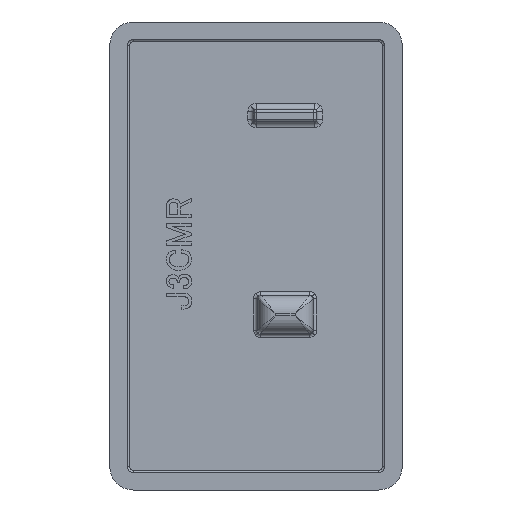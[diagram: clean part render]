
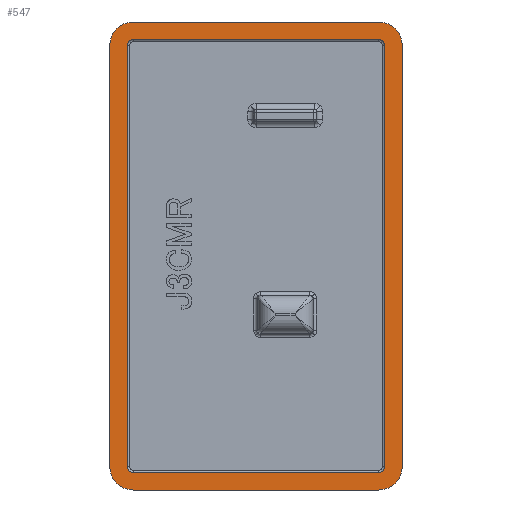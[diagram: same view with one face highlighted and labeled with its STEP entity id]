
A CAD part, front view. The second image highlights one B-rep face of the part: STEP entity #547.
In plain terms, the highlighted planar face has unit normal (0, -1, 0).
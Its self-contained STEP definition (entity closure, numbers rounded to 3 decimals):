
#7 = AXIS2_PLACEMENT_3D ( 'NONE', #7466, #3856, #321 ) ;
#24 = PLANE ( 'NONE',  #54 ) ;
#31 = ORIENTED_EDGE ( 'NONE', *, *, #400, .F. ) ;
#42 = DIRECTION ( 'NONE',  ( 0., 1., 0. ) ) ;
#54 = AXIS2_PLACEMENT_3D ( 'NONE', #6551, #618, #4769 ) ;
#98 = EDGE_LOOP ( 'NONE', ( #31, #1406, #2171, #2607, #2353, #4055, #3730, #4157 ) ) ;
#100 = VECTOR ( 'NONE', #725, 1000. ) ;
#182 = LINE ( 'NONE', #2477, #6309 ) ;
#208 = EDGE_CURVE ( 'NONE', #4601, #5808, #3417, .T. ) ;
#247 = CARTESIAN_POINT ( 'NONE',  ( 23.5, 0., -38. ) ) ;
#314 = EDGE_LOOP ( 'NONE', ( #459, #3101, #2726, #2185, #5000, #1221, #1032, #414 ) ) ;
#321 = DIRECTION ( 'NONE',  ( 0., 0., 1. ) ) ;
#383 = AXIS2_PLACEMENT_3D ( 'NONE', #427, #4571, #1015 ) ;
#400 = EDGE_CURVE ( 'NONE', #2638, #4152, #1922, .T. ) ;
#414 = ORIENTED_EDGE ( 'NONE', *, *, #7040, .F. ) ;
#427 = CARTESIAN_POINT ( 'NONE',  ( 2., 0., -38. ) ) ;
#436 = LINE ( 'NONE', #1874, #3776 ) ;
#459 = ORIENTED_EDGE ( 'NONE', *, *, #7438, .F. ) ;
#500 = VERTEX_POINT ( 'NONE', #5306 ) ;
#519 = EDGE_CURVE ( 'NONE', #4267, #500, #2955, .T. ) ;
#547 = ADVANCED_FACE ( 'NONE', ( #1550, #4336 ), #24, .F. ) ;
#598 = DIRECTION ( 'NONE',  ( 0., 0., 1. ) ) ;
#618 = DIRECTION ( 'NONE',  ( 0., 1., 0. ) ) ;
#725 = DIRECTION ( 'NONE',  ( 0., 0., -1. ) ) ;
#789 = DIRECTION ( 'NONE',  ( 0., 1., 0. ) ) ;
#798 = CARTESIAN_POINT ( 'NONE',  ( 23., 0., 0. ) ) ;
#807 = DIRECTION ( 'NONE',  ( 0., 1., 0. ) ) ;
#814 = DIRECTION ( 'NONE',  ( 0., 0., -1. ) ) ;
#909 = CARTESIAN_POINT ( 'NONE',  ( 2., 0., -40. ) ) ;
#935 = AXIS2_PLACEMENT_3D ( 'NONE', #4351, #807, #4969 ) ;
#973 = AXIS2_PLACEMENT_3D ( 'NONE', #3446, #7639, #4034 ) ;
#1015 = DIRECTION ( 'NONE',  ( 0., 0., 1. ) ) ;
#1032 = ORIENTED_EDGE ( 'NONE', *, *, #4410, .F. ) ;
#1189 = AXIS2_PLACEMENT_3D ( 'NONE', #5709, #2123, #6287 ) ;
#1221 = ORIENTED_EDGE ( 'NONE', *, *, #1729, .F. ) ;
#1388 = CARTESIAN_POINT ( 'NONE',  ( 2., 0., -40. ) ) ;
#1406 = ORIENTED_EDGE ( 'NONE', *, *, #3033, .T. ) ;
#1534 = EDGE_CURVE ( 'NONE', #2918, #7446, #3349, .T. ) ;
#1540 = CARTESIAN_POINT ( 'NONE',  ( 2., 0., -38.5 ) ) ;
#1550 = FACE_BOUND ( 'NONE', #98, .T. ) ;
#1566 = EDGE_CURVE ( 'NONE', #2266, #3380, #1569, .T. ) ;
#1569 = CIRCLE ( 'NONE', #1189, 2. ) ;
#1656 = LINE ( 'NONE', #6055, #4839 ) ;
#1729 = EDGE_CURVE ( 'NONE', #3869, #2918, #1656, .T. ) ;
#1742 = EDGE_CURVE ( 'NONE', #7446, #2266, #3437, .T. ) ;
#1825 = CARTESIAN_POINT ( 'NONE',  ( 0., 0., -2. ) ) ;
#1874 = CARTESIAN_POINT ( 'NONE',  ( 0., 0., -2. ) ) ;
#1922 = LINE ( 'NONE', #6414, #6494 ) ;
#1983 = DIRECTION ( 'NONE',  ( -1., 0., 0. ) ) ;
#2017 = VERTEX_POINT ( 'NONE', #4414 ) ;
#2031 = VECTOR ( 'NONE', #814, 1000. ) ;
#2123 = DIRECTION ( 'NONE',  ( 0., 1., 0. ) ) ;
#2171 = ORIENTED_EDGE ( 'NONE', *, *, #5288, .F. ) ;
#2175 = AXIS2_PLACEMENT_3D ( 'NONE', #3345, #7532, #3928 ) ;
#2185 = ORIENTED_EDGE ( 'NONE', *, *, #1742, .F. ) ;
#2266 = VERTEX_POINT ( 'NONE', #6532 ) ;
#2353 = ORIENTED_EDGE ( 'NONE', *, *, #2839, .F. ) ;
#2394 = VECTOR ( 'NONE', #1983, 1000. ) ;
#2477 = CARTESIAN_POINT ( 'NONE',  ( 1.5, 0., -1.5 ) ) ;
#2486 = DIRECTION ( 'NONE',  ( 1., 0., 0. ) ) ;
#2607 = ORIENTED_EDGE ( 'NONE', *, *, #208, .T. ) ;
#2638 = VERTEX_POINT ( 'NONE', #1540 ) ;
#2726 = ORIENTED_EDGE ( 'NONE', *, *, #1566, .F. ) ;
#2839 = EDGE_CURVE ( 'NONE', #3691, #5808, #182, .T. ) ;
#2890 = CARTESIAN_POINT ( 'NONE',  ( 2., 0., 0. ) ) ;
#2918 = VERTEX_POINT ( 'NONE', #798 ) ;
#2940 = CIRCLE ( 'NONE', #383, 2. ) ;
#2955 = LINE ( 'NONE', #4133, #3141 ) ;
#3033 = EDGE_CURVE ( 'NONE', #2638, #3734, #6991, .T. ) ;
#3069 = DIRECTION ( 'NONE',  ( -1., 0., 0. ) ) ;
#3075 = DIRECTION ( 'NONE',  ( 0., 0., 1. ) ) ;
#3101 = ORIENTED_EDGE ( 'NONE', *, *, #6070, .F. ) ;
#3141 = VECTOR ( 'NONE', #598, 1000. ) ;
#3146 = VERTEX_POINT ( 'NONE', #909 ) ;
#3345 = CARTESIAN_POINT ( 'NONE',  ( 2., 0., -2. ) ) ;
#3349 = CIRCLE ( 'NONE', #7, 2. ) ;
#3380 = VERTEX_POINT ( 'NONE', #5953 ) ;
#3417 = CIRCLE ( 'NONE', #2175, 0.5 ) ;
#3437 = LINE ( 'NONE', #4280, #100 ) ;
#3446 = CARTESIAN_POINT ( 'NONE',  ( 2., 0., -2. ) ) ;
#3582 = CARTESIAN_POINT ( 'NONE',  ( 23., 0., -38. ) ) ;
#3691 = VERTEX_POINT ( 'NONE', #6272 ) ;
#3730 = ORIENTED_EDGE ( 'NONE', *, *, #519, .F. ) ;
#3734 = VERTEX_POINT ( 'NONE', #6321 ) ;
#3762 = CARTESIAN_POINT ( 'NONE',  ( 1.5, 0., -38.5 ) ) ;
#3776 = VECTOR ( 'NONE', #3075, 1000. ) ;
#3856 = DIRECTION ( 'NONE',  ( 0., 1., 0. ) ) ;
#3869 = VERTEX_POINT ( 'NONE', #2890 ) ;
#3928 = DIRECTION ( 'NONE',  ( 0., 0., 1. ) ) ;
#4029 = DIRECTION ( 'NONE',  ( 1., 0., 0. ) ) ;
#4034 = DIRECTION ( 'NONE',  ( 0., 0., 1. ) ) ;
#4055 = ORIENTED_EDGE ( 'NONE', *, *, #5498, .T. ) ;
#4133 = CARTESIAN_POINT ( 'NONE',  ( 23.5, 0., -38.5 ) ) ;
#4152 = VERTEX_POINT ( 'NONE', #7262 ) ;
#4157 = ORIENTED_EDGE ( 'NONE', *, *, #7342, .T. ) ;
#4176 = DIRECTION ( 'NONE',  ( 0., 0., 1. ) ) ;
#4267 = VERTEX_POINT ( 'NONE', #247 ) ;
#4280 = CARTESIAN_POINT ( 'NONE',  ( 25., 0., -2. ) ) ;
#4326 = CARTESIAN_POINT ( 'NONE',  ( 2., 0., -38. ) ) ;
#4336 = FACE_OUTER_BOUND ( 'NONE', #314, .T. ) ;
#4351 = CARTESIAN_POINT ( 'NONE',  ( 23., 0., -2. ) ) ;
#4410 = EDGE_CURVE ( 'NONE', #7015, #3869, #6147, .T. ) ;
#4414 = CARTESIAN_POINT ( 'NONE',  ( 0., 0., -38. ) ) ;
#4571 = DIRECTION ( 'NONE',  ( 0., 1., 0. ) ) ;
#4601 = VERTEX_POINT ( 'NONE', #6169 ) ;
#4769 = DIRECTION ( 'NONE',  ( 0., 0., 1. ) ) ;
#4839 = VECTOR ( 'NONE', #2486, 1000. ) ;
#4950 = DIRECTION ( 'NONE',  ( 0., 0., 1. ) ) ;
#4969 = DIRECTION ( 'NONE',  ( 0., 0., 1. ) ) ;
#5000 = ORIENTED_EDGE ( 'NONE', *, *, #1534, .F. ) ;
#5288 = EDGE_CURVE ( 'NONE', #4601, #3734, #6810, .T. ) ;
#5306 = CARTESIAN_POINT ( 'NONE',  ( 23.5, 0., -2. ) ) ;
#5318 = AXIS2_PLACEMENT_3D ( 'NONE', #4326, #789, #4950 ) ;
#5498 = EDGE_CURVE ( 'NONE', #3691, #500, #7095, .T. ) ;
#5709 = CARTESIAN_POINT ( 'NONE',  ( 23., 0., -38. ) ) ;
#5808 = VERTEX_POINT ( 'NONE', #6468 ) ;
#5953 = CARTESIAN_POINT ( 'NONE',  ( 23., 0., -40. ) ) ;
#6055 = CARTESIAN_POINT ( 'NONE',  ( 2., 0., 0. ) ) ;
#6070 = EDGE_CURVE ( 'NONE', #3380, #3146, #6985, .T. ) ;
#6147 = CIRCLE ( 'NONE', #973, 2. ) ;
#6169 = CARTESIAN_POINT ( 'NONE',  ( 1.5, 0., -2. ) ) ;
#6272 = CARTESIAN_POINT ( 'NONE',  ( 23., 0., -1.5 ) ) ;
#6287 = DIRECTION ( 'NONE',  ( 0., 0., 1. ) ) ;
#6309 = VECTOR ( 'NONE', #3069, 1000. ) ;
#6321 = CARTESIAN_POINT ( 'NONE',  ( 1.5, 0., -38. ) ) ;
#6414 = CARTESIAN_POINT ( 'NONE',  ( 1.5, 0., -38.5 ) ) ;
#6468 = CARTESIAN_POINT ( 'NONE',  ( 2., 0., -1.5 ) ) ;
#6494 = VECTOR ( 'NONE', #4029, 1000. ) ;
#6532 = CARTESIAN_POINT ( 'NONE',  ( 25., 0., -38. ) ) ;
#6551 = CARTESIAN_POINT ( 'NONE',  ( 2., 0., -38. ) ) ;
#6678 = CIRCLE ( 'NONE', #7336, 0.5 ) ;
#6810 = LINE ( 'NONE', #3762, #2031 ) ;
#6981 = CARTESIAN_POINT ( 'NONE',  ( 25., 0., -2. ) ) ;
#6985 = LINE ( 'NONE', #1388, #2394 ) ;
#6991 = CIRCLE ( 'NONE', #5318, 0.5 ) ;
#7015 = VERTEX_POINT ( 'NONE', #1825 ) ;
#7040 = EDGE_CURVE ( 'NONE', #2017, #7015, #436, .T. ) ;
#7095 = CIRCLE ( 'NONE', #935, 0.5 ) ;
#7262 = CARTESIAN_POINT ( 'NONE',  ( 23., 0., -38.5 ) ) ;
#7336 = AXIS2_PLACEMENT_3D ( 'NONE', #3582, #42, #4176 ) ;
#7342 = EDGE_CURVE ( 'NONE', #4267, #4152, #6678, .T. ) ;
#7438 = EDGE_CURVE ( 'NONE', #3146, #2017, #2940, .T. ) ;
#7446 = VERTEX_POINT ( 'NONE', #6981 ) ;
#7466 = CARTESIAN_POINT ( 'NONE',  ( 23., 0., -2. ) ) ;
#7532 = DIRECTION ( 'NONE',  ( 0., 1., 0. ) ) ;
#7639 = DIRECTION ( 'NONE',  ( 0., 1., 0. ) ) ;
